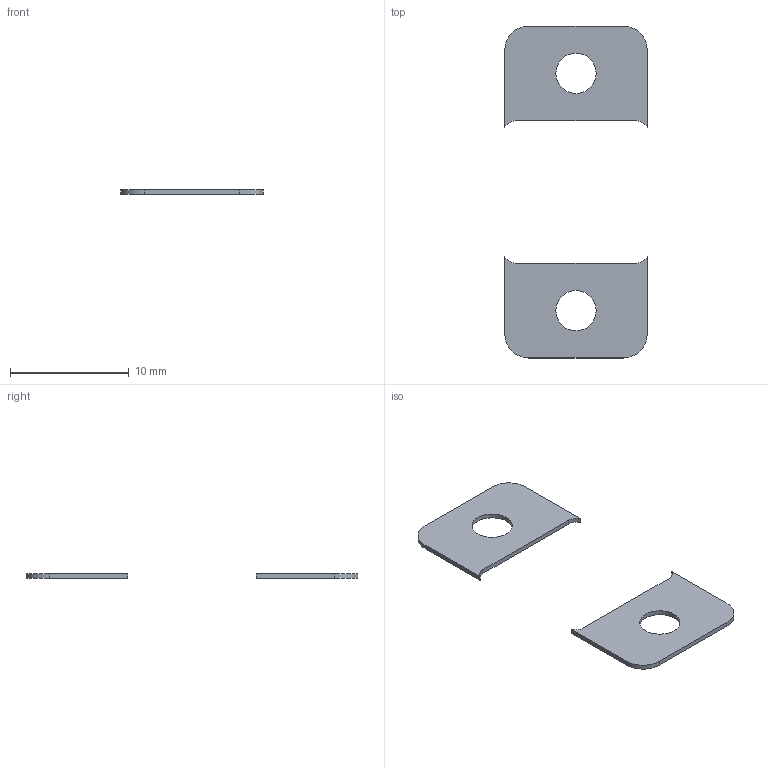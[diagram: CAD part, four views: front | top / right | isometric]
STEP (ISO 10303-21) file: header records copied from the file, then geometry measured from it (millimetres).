
FILE_DESCRIPTION(('FreeCAD Model'),'2;1');
FILE_NAME('Open CASCADE Shape Model','2026-09-29T21:45:30',('Author'),( ''),'Open CASCADE STEP processor 7.8','FreeCAD','Unknown');
FILE_SCHEMA(('AUTOMOTIVE_DESIGN { 1 0 10303 214 1 1 1 1 }'));
Length unit declared in the file: millimetre
Products named in the file (1): clamp_shims_0p4
Bounding box: 12 x 28 x 0.4 mm (x, y, z)
Volume: 68.4 mm3; surface area: 382.4 mm2
Topology: 2 solids, 2 shells, 22 faces, 54 edges, 36 vertices
Faces by surface type: plane 12, cylinder 10
Full cylindrical faces by diameter (mm): 3.4 x2
Entity records: 674 total; most frequent: DIRECTION 120, CARTESIAN_POINT 113, ORIENTED_EDGE 108, EDGE_CURVE 54, AXIS2_PLACEMENT_3D 43, VERTEX_POINT 36, LINE 34, VECTOR 34
